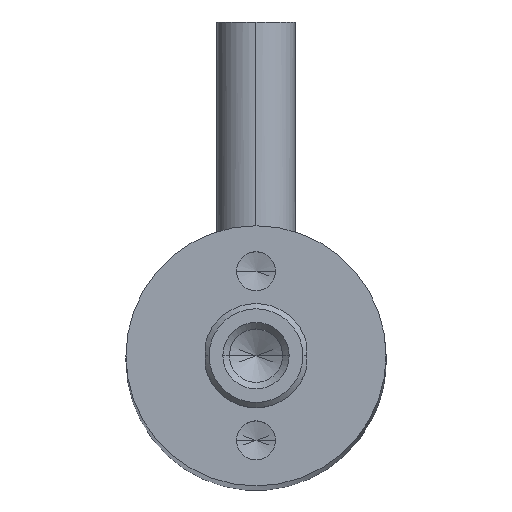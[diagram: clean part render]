
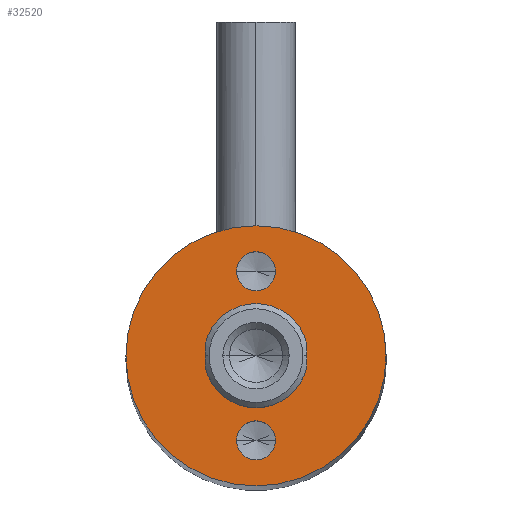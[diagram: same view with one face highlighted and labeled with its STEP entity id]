
A CAD part, top view. The second image highlights one B-rep face of the part: STEP entity #32520.
In plain terms, the highlighted planar face has unit normal (0, 0, 1).
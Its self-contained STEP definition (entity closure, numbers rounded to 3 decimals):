
#322 = CIRCLE ( 'NONE', #13537, 0.75 ) ;
#667 = CIRCLE ( 'NONE', #37752, 2. ) ;
#773 = CARTESIAN_POINT ( 'NONE',  ( -1.95, -5.595, 100.6 ) ) ;
#971 = EDGE_CURVE ( 'NONE', #37585, #1204, #7064, .T. ) ;
#1204 = VERTEX_POINT ( 'NONE', #30690 ) ;
#1495 = VERTEX_POINT ( 'NONE', #38390 ) ;
#4238 = AXIS2_PLACEMENT_3D ( 'NONE', #15990, #4747, #46289 ) ;
#4421 = PLANE ( 'NONE',  #4238 ) ;
#4747 = DIRECTION ( 'NONE',  ( 0., 0., 1. ) ) ;
#6298 = ORIENTED_EDGE ( 'NONE', *, *, #971, .T. ) ;
#6517 = DIRECTION ( 'NONE',  ( 1., 0., 0. ) ) ;
#7064 = CIRCLE ( 'NONE', #16150, 5. ) ;
#7813 = VERTEX_POINT ( 'NONE', #27924 ) ;
#8921 = DIRECTION ( 'NONE',  ( 0., 0., 1. ) ) ;
#9385 = DIRECTION ( 'NONE',  ( 1., 0., 0. ) ) ;
#10429 = CARTESIAN_POINT ( 'NONE',  ( 0., -3.25, 100.6 ) ) ;
#10595 = DIRECTION ( 'NONE',  ( 0., 0., 1. ) ) ;
#11446 = DIRECTION ( 'NONE',  ( 0., 0., 1. ) ) ;
#12513 = AXIS2_PLACEMENT_3D ( 'NONE', #27335, #23811, #42569 ) ;
#12578 = AXIS2_PLACEMENT_3D ( 'NONE', #25315, #17460, #13619 ) ;
#12686 = DIRECTION ( 'NONE',  ( 0., 1., 0. ) ) ;
#13128 = LINE ( 'NONE', #773, #36377 ) ;
#13537 = AXIS2_PLACEMENT_3D ( 'NONE', #10429, #40533, #40698 ) ;
#13619 = DIRECTION ( 'NONE',  ( 1., 0., 0. ) ) ;
#14411 = VERTEX_POINT ( 'NONE', #44486 ) ;
#14550 = ORIENTED_EDGE ( 'NONE', *, *, #42448, .F. ) ;
#14783 = VERTEX_POINT ( 'NONE', #39186 ) ;
#15990 = CARTESIAN_POINT ( 'NONE',  ( 0., 0., 100.6 ) ) ;
#16033 = ORIENTED_EDGE ( 'NONE', *, *, #35883, .F. ) ;
#16076 = EDGE_LOOP ( 'NONE', ( #16033, #34130 ) ) ;
#16150 = AXIS2_PLACEMENT_3D ( 'NONE', #22632, #11446, #38180 ) ;
#16223 = EDGE_LOOP ( 'NONE', ( #35181, #6298 ) ) ;
#16421 = DIRECTION ( 'NONE',  ( 1., 0., 0. ) ) ;
#16794 = EDGE_CURVE ( 'NONE', #37233, #14783, #13128, .T. ) ;
#17460 = DIRECTION ( 'NONE',  ( 0., 0., 1. ) ) ;
#19581 = EDGE_CURVE ( 'NONE', #7813, #1495, #43592, .T. ) ;
#21155 = ORIENTED_EDGE ( 'NONE', *, *, #24010, .F. ) ;
#21528 = VERTEX_POINT ( 'NONE', #39656 ) ;
#21948 = DIRECTION ( 'NONE',  ( 1., 0., 0. ) ) ;
#22632 = CARTESIAN_POINT ( 'NONE',  ( 0., 0., 100.6 ) ) ;
#23811 = DIRECTION ( 'NONE',  ( 0., 0., 1. ) ) ;
#24010 = EDGE_CURVE ( 'NONE', #1495, #7813, #41146, .T. ) ;
#24137 = EDGE_CURVE ( 'NONE', #14783, #38915, #31541, .T. ) ;
#24915 = VECTOR ( 'NONE', #12686, 1000. ) ;
#25315 = CARTESIAN_POINT ( 'NONE',  ( 0., 3.25, 100.6 ) ) ;
#25436 = FACE_BOUND ( 'NONE', #42073, .T. ) ;
#26357 = EDGE_CURVE ( 'NONE', #21528, #46038, #322, .T. ) ;
#26889 = ORIENTED_EDGE ( 'NONE', *, *, #16794, .F. ) ;
#27335 = CARTESIAN_POINT ( 'NONE',  ( 0., 3.25, 100.6 ) ) ;
#27924 = CARTESIAN_POINT ( 'NONE',  ( 0.75, 3.25, 100.6 ) ) ;
#28240 = CARTESIAN_POINT ( 'NONE',  ( 1.95, -5.595, 100.6 ) ) ;
#28683 = CIRCLE ( 'NONE', #48951, 0.75 ) ;
#29241 = EDGE_CURVE ( 'NONE', #38915, #14411, #36292, .T. ) ;
#30264 = ORIENTED_EDGE ( 'NONE', *, *, #29241, .F. ) ;
#30690 = CARTESIAN_POINT ( 'NONE',  ( -5., 0., 100.6 ) ) ;
#31541 = CIRCLE ( 'NONE', #38182, 2. ) ;
#31975 = DIRECTION ( 'NONE',  ( 0., 0., 1. ) ) ;
#32002 = CARTESIAN_POINT ( 'NONE',  ( 0., 0., 100.6 ) ) ;
#32520 = ADVANCED_FACE ( 'NONE', ( #47014, #37387, #25436, #36814 ), #4421, .T. ) ;
#33470 = CARTESIAN_POINT ( 'NONE',  ( 0., 0., 100.6 ) ) ;
#34130 = ORIENTED_EDGE ( 'NONE', *, *, #26357, .F. ) ;
#34594 = DIRECTION ( 'NONE',  ( 0., -1., 0. ) ) ;
#35181 = ORIENTED_EDGE ( 'NONE', *, *, #40148, .T. ) ;
#35635 = CARTESIAN_POINT ( 'NONE',  ( 0., -3.25, 100.6 ) ) ;
#35883 = EDGE_CURVE ( 'NONE', #46038, #21528, #28683, .T. ) ;
#36292 = LINE ( 'NONE', #28240, #24915 ) ;
#36377 = VECTOR ( 'NONE', #34594, 1000. ) ;
#36814 = FACE_BOUND ( 'NONE', #16076, .T. ) ;
#36854 = CARTESIAN_POINT ( 'NONE',  ( 0., 0., 100.6 ) ) ;
#37233 = VERTEX_POINT ( 'NONE', #44871 ) ;
#37387 = FACE_OUTER_BOUND ( 'NONE', #16223, .T. ) ;
#37585 = VERTEX_POINT ( 'NONE', #49638 ) ;
#37654 = EDGE_LOOP ( 'NONE', ( #49663, #26889, #14550, #30264 ) ) ;
#37752 = AXIS2_PLACEMENT_3D ( 'NONE', #33470, #44341, #6517 ) ;
#38180 = DIRECTION ( 'NONE',  ( 1., 0., 0. ) ) ;
#38182 = AXIS2_PLACEMENT_3D ( 'NONE', #36854, #10595, #21948 ) ;
#38390 = CARTESIAN_POINT ( 'NONE',  ( -0.75, 3.25, 100.6 ) ) ;
#38915 = VERTEX_POINT ( 'NONE', #47224 ) ;
#39186 = CARTESIAN_POINT ( 'NONE',  ( -1.95, -0.444, 100.6 ) ) ;
#39656 = CARTESIAN_POINT ( 'NONE',  ( -0.75, -3.25, 100.6 ) ) ;
#40148 = EDGE_CURVE ( 'NONE', #1204, #37585, #43894, .T. ) ;
#40533 = DIRECTION ( 'NONE',  ( 0., 0., 1. ) ) ;
#40698 = DIRECTION ( 'NONE',  ( 1., 0., 0. ) ) ;
#40943 = AXIS2_PLACEMENT_3D ( 'NONE', #32002, #8921, #16421 ) ;
#41146 = CIRCLE ( 'NONE', #12578, 0.75 ) ;
#42073 = EDGE_LOOP ( 'NONE', ( #43310, #21155 ) ) ;
#42132 = CARTESIAN_POINT ( 'NONE',  ( 0.75, -3.25, 100.6 ) ) ;
#42448 = EDGE_CURVE ( 'NONE', #14411, #37233, #667, .T. ) ;
#42569 = DIRECTION ( 'NONE',  ( 1., 0., 0. ) ) ;
#43310 = ORIENTED_EDGE ( 'NONE', *, *, #19581, .F. ) ;
#43592 = CIRCLE ( 'NONE', #12513, 0.75 ) ;
#43894 = CIRCLE ( 'NONE', #40943, 5. ) ;
#44341 = DIRECTION ( 'NONE',  ( 0., 0., 1. ) ) ;
#44486 = CARTESIAN_POINT ( 'NONE',  ( 1.95, 0.444, 100.6 ) ) ;
#44871 = CARTESIAN_POINT ( 'NONE',  ( -1.95, 0.444, 100.6 ) ) ;
#46038 = VERTEX_POINT ( 'NONE', #42132 ) ;
#46289 = DIRECTION ( 'NONE',  ( 1., 0., 0. ) ) ;
#47014 = FACE_BOUND ( 'NONE', #37654, .T. ) ;
#47224 = CARTESIAN_POINT ( 'NONE',  ( 1.95, -0.444, 100.6 ) ) ;
#48951 = AXIS2_PLACEMENT_3D ( 'NONE', #35635, #31975, #9385 ) ;
#49638 = CARTESIAN_POINT ( 'NONE',  ( 5., 0., 100.6 ) ) ;
#49663 = ORIENTED_EDGE ( 'NONE', *, *, #24137, .F. ) ;
